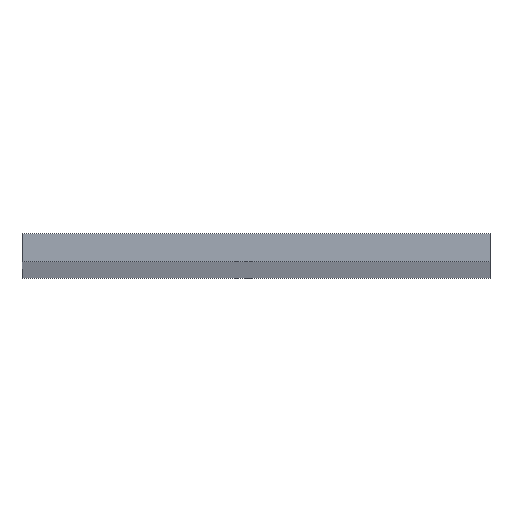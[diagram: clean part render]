
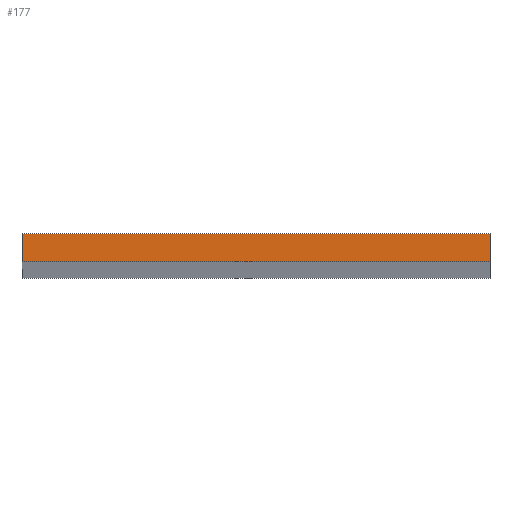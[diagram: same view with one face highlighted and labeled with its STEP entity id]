
A CAD part, top view. The second image highlights one B-rep face of the part: STEP entity #177.
In plain terms, the highlighted planar face has unit normal (0, 0, 1).
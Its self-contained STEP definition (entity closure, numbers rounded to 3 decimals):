
#3 = DIRECTION ( 'NONE',  ( 0., 0., -1. ) ) ;
#5 = FACE_OUTER_BOUND ( 'NONE', #170, .T. ) ;
#16 = AXIS2_PLACEMENT_3D ( 'NONE', #131, #3, #90 ) ;
#21 = PLANE ( 'NONE',  #16 ) ;
#31 = DIRECTION ( 'NONE',  ( 0., -1., 0. ) ) ;
#32 = EDGE_CURVE ( 'NONE', #85, #155, #54, .T. ) ;
#46 = DIRECTION ( 'NONE',  ( -1., 0., 0. ) ) ;
#50 = EDGE_CURVE ( 'NONE', #56, #85, #151, .T. ) ;
#54 = LINE ( 'NONE', #120, #156 ) ;
#56 = VERTEX_POINT ( 'NONE', #178 ) ;
#59 = VERTEX_POINT ( 'NONE', #92 ) ;
#72 = CARTESIAN_POINT ( 'NONE',  ( 50., 0., 0. ) ) ;
#75 = VECTOR ( 'NONE', #31, 1000. ) ;
#81 = DIRECTION ( 'NONE',  ( 1., 0., 0. ) ) ;
#82 = EDGE_CURVE ( 'NONE', #59, #56, #111, .T. ) ;
#85 = VERTEX_POINT ( 'NONE', #72 ) ;
#90 = DIRECTION ( 'NONE',  ( -1., 0., 0. ) ) ;
#92 = CARTESIAN_POINT ( 'NONE',  ( 0., 3., 0. ) ) ;
#94 = VECTOR ( 'NONE', #46, 1000. ) ;
#98 = CARTESIAN_POINT ( 'NONE',  ( 0., 0., 0. ) ) ;
#100 = EDGE_CURVE ( 'NONE', #155, #59, #158, .T. ) ;
#108 = DIRECTION ( 'NONE',  ( 0., 1., 0. ) ) ;
#109 = ORIENTED_EDGE ( 'NONE', *, *, #50, .T. ) ;
#111 = LINE ( 'NONE', #98, #75 ) ;
#120 = CARTESIAN_POINT ( 'NONE',  ( 50., 0., 0. ) ) ;
#122 = ORIENTED_EDGE ( 'NONE', *, *, #100, .T. ) ;
#131 = CARTESIAN_POINT ( 'NONE',  ( 0., 0., 0. ) ) ;
#151 = LINE ( 'NONE', #166, #176 ) ;
#155 = VERTEX_POINT ( 'NONE', #162 ) ;
#156 = VECTOR ( 'NONE', #108, 1000. ) ;
#157 = ORIENTED_EDGE ( 'NONE', *, *, #32, .T. ) ;
#158 = LINE ( 'NONE', #185, #94 ) ;
#162 = CARTESIAN_POINT ( 'NONE',  ( 50., 3., 0. ) ) ;
#166 = CARTESIAN_POINT ( 'NONE',  ( 0., 0., 0. ) ) ;
#169 = ORIENTED_EDGE ( 'NONE', *, *, #82, .T. ) ;
#170 = EDGE_LOOP ( 'NONE', ( #169, #109, #157, #122 ) ) ;
#176 = VECTOR ( 'NONE', #81, 1000. ) ;
#177 = ADVANCED_FACE ( 'NONE', ( #5 ), #21, .F. ) ;
#178 = CARTESIAN_POINT ( 'NONE',  ( 0., 0., 0. ) ) ;
#185 = CARTESIAN_POINT ( 'NONE',  ( 0., 3., 0. ) ) ;
